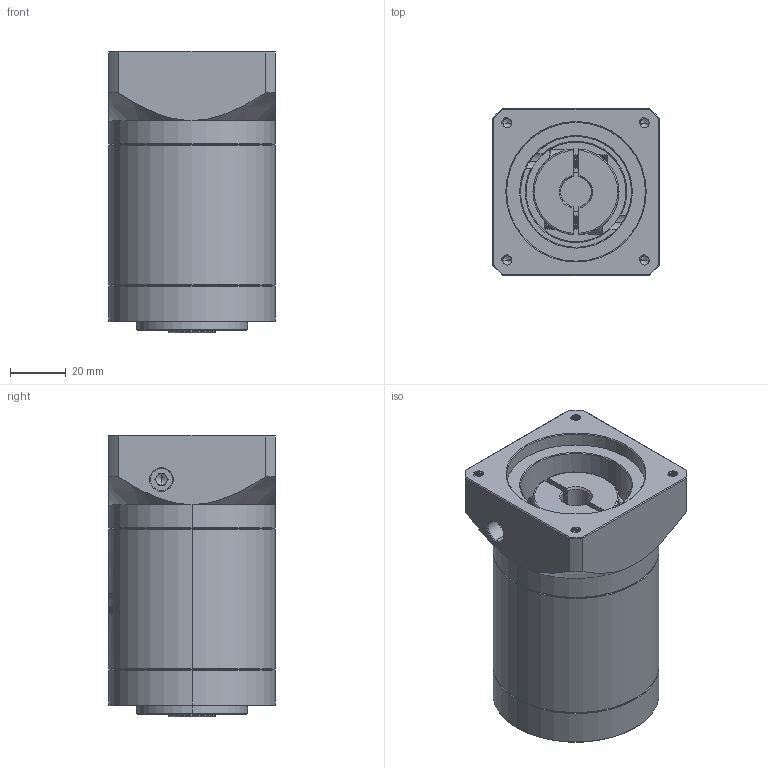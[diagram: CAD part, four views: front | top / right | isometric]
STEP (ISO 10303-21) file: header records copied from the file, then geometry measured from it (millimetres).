
FILE_DESCRIPTION (( 'STEP AP214' ), '1' );
FILE_NAME ('ZE60-K10-L2-11-50-70-M4.STEP', '2022-04-17T15:16:58', ( '' ), ( 'Microsoft' ), 'SwSTEP 2.0', 'SolidWorks 2016', '' );
FILE_SCHEMA (( 'AUTOMOTIVE_DESIGN' ));
Length unit declared in the file: millimetre
Products named in the file (1): ZE60-K10-L2-11-50-70-M4
Bounding box: 60 x 60 x 101.5 mm (x, y, z)
Volume: 256346.5 mm3; surface area: 44811.1 mm2
Topology: 6 solids, 6 shells, 1641 faces, 4470 edges, 2900 vertices
Faces by surface type: plane 725, cylinder 380, bspline 304, cone 214, torus 18
Entity records: 93725 total; most frequent: CARTESIAN_POINT 38319, ORIENTED_EDGE 8900, DIRECTION 6379, EDGE_CURVE 4450, VERTEX_POINT 2900, VECTOR 2239, LINE 2239, AXIS2_PLACEMENT_3D 2070
